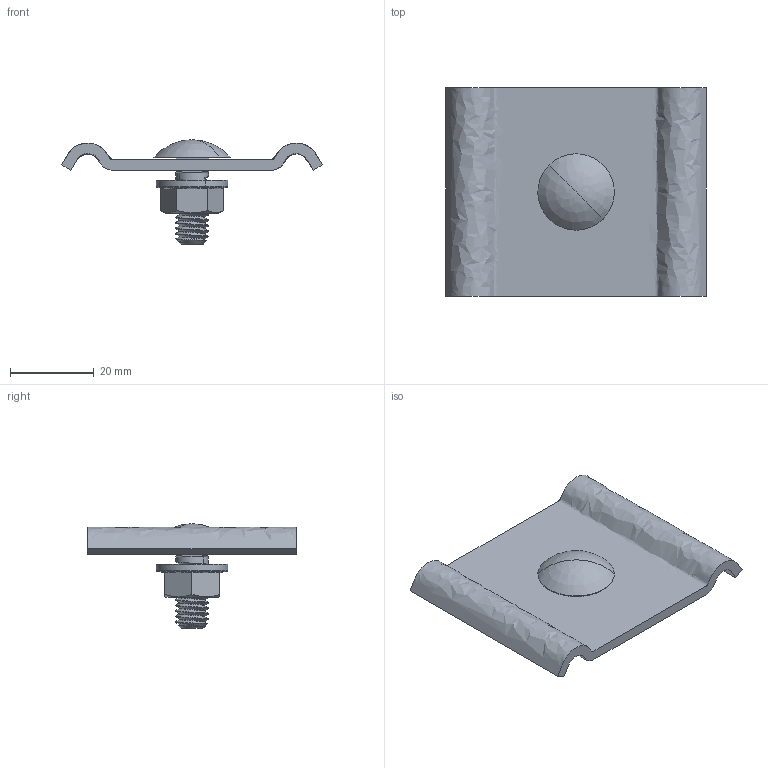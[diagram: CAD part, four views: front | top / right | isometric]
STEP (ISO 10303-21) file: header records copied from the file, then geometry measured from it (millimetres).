
FILE_DESCRIPTION(/* description */ (''),/* implementation_level */ '2;1');
FILE_NAME(/* name */ 'PZSM2_~1',/* time_stamp */ '2024-01-28T21:18:57+01:00',/* author */ (''),/* organization */ (''),/* preprocessor_version */ 'ST-DEVELOPER v16.5',/* originating_system */ '',/* authorisation */ '');
FILE_SCHEMA (('CONFIG_CONTROL_DESIGN'));
Length unit declared in the file: millimetre
Products named in the file (1): Document
Bounding box: 62.45 x 50 x 24.98 mm (x, y, z)
Volume: 5825.2 mm3; surface area: 9538.7 mm2
Topology: 2 solids, 3 shells, 95 faces, 254 edges, 165 vertices
Faces by surface type: bspline 47, cylinder 26, plane 22
Entity records: 9765 total; most frequent: CARTESIAN_POINT 8112, ORIENTED_EDGE 490, EDGE_CURVE 252, B_SPLINE_CURVE_WITH_KNOTS 186, VERTEX_POINT 164, EDGE_LOOP 100, ADVANCED_FACE 95, FACE_OUTER_BOUND 95
